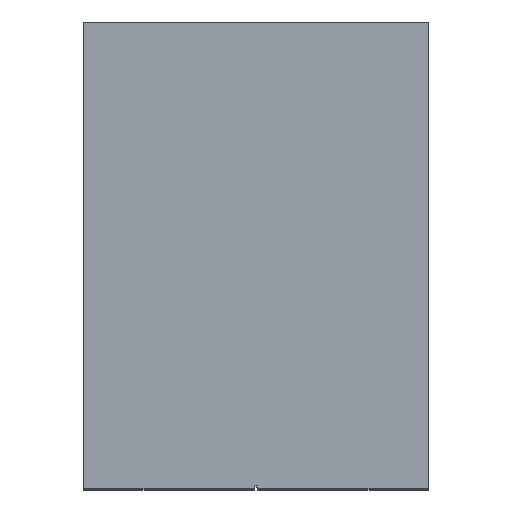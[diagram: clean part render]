
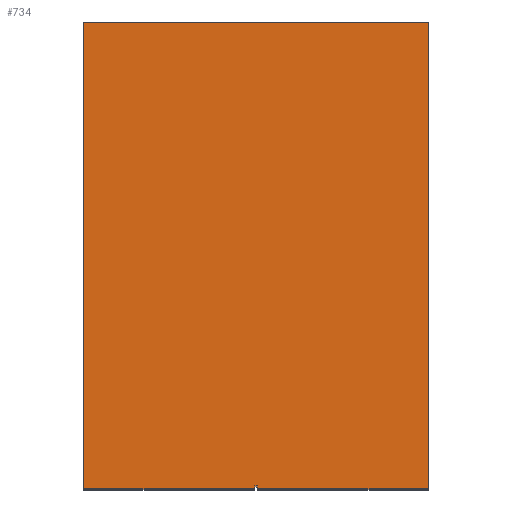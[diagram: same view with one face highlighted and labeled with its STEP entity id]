
A CAD part, top view. The second image highlights one B-rep face of the part: STEP entity #734.
In plain terms, the highlighted planar face has unit normal (0, 0, 1).
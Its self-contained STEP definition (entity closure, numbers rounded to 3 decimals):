
#52=FACE_OUTER_BOUND('',#83,.T.);
#83=EDGE_LOOP('',(#648,#649,#650,#651,#652,#653,#654,#655));
#218=VERTEX_POINT('',#2017);
#220=VERTEX_POINT('',#2020);
#227=VERTEX_POINT('',#2036);
#229=VERTEX_POINT('',#2040);
#242=VERTEX_POINT('',#2082);
#243=VERTEX_POINT('',#2086);
#248=VERTEX_POINT('',#2104);
#249=VERTEX_POINT('',#2106);
#386=EDGE_CURVE('',#220,#218,#1021,.T.);
#396=EDGE_CURVE('',#227,#229,#1031,.T.);
#408=EDGE_CURVE('',#218,#227,#1043,.T.);
#418=EDGE_CURVE('',#242,#220,#1053,.T.);
#420=EDGE_CURVE('',#229,#243,#1055,.T.);
#428=EDGE_CURVE('',#248,#243,#1063,.T.);
#429=EDGE_CURVE('',#249,#248,#1064,.T.);
#430=EDGE_CURVE('',#242,#249,#1065,.T.);
#648=ORIENTED_EDGE('',*,*,#428,.F.);
#649=ORIENTED_EDGE('',*,*,#429,.F.);
#650=ORIENTED_EDGE('',*,*,#430,.F.);
#651=ORIENTED_EDGE('',*,*,#418,.T.);
#652=ORIENTED_EDGE('',*,*,#386,.T.);
#653=ORIENTED_EDGE('',*,*,#408,.T.);
#654=ORIENTED_EDGE('',*,*,#396,.T.);
#655=ORIENTED_EDGE('',*,*,#420,.T.);
#703=PLANE('',#1319);
#734=ADVANCED_FACE('',(#52),#703,.T.);
#1021=LINE('',#2021,#1244);
#1031=LINE('',#2042,#1254);
#1043=LINE('',#2067,#1266);
#1053=LINE('',#2084,#1276);
#1055=LINE('',#2088,#1278);
#1063=LINE('',#2105,#1286);
#1064=LINE('',#2107,#1287);
#1065=LINE('',#2108,#1288);
#1244=VECTOR('',#1531,10.);
#1254=VECTOR('',#1545,10.);
#1266=VECTOR('',#1565,10.);
#1276=VECTOR('',#1581,595.);
#1278=VECTOR('',#1585,595.);
#1286=VECTOR('',#1601,1625.);
#1287=VECTOR('',#1602,1200.);
#1288=VECTOR('',#1603,1625.);
#1319=AXIS2_PLACEMENT_3D('',#2103,#1599,#1600);
#1531=DIRECTION('',(0.,1.,0.));
#1545=DIRECTION('',(0.,-1.,0.));
#1565=DIRECTION('',(1.,0.,0.));
#1581=DIRECTION('',(1.,0.,0.));
#1585=DIRECTION('',(1.,0.,0.));
#1599=DIRECTION('center_axis',(0.,0.,1.));
#1600=DIRECTION('ref_axis',(-1.,0.,0.));
#1601=DIRECTION('',(0.,-1.,0.));
#1602=DIRECTION('',(1.,0.,0.));
#1603=DIRECTION('',(0.,1.,0.));
#2017=CARTESIAN_POINT('',(595.,-1615.,2700.));
#2020=CARTESIAN_POINT('',(595.,-1625.,2700.));
#2021=CARTESIAN_POINT('',(595.,-1625.,2700.));
#2036=CARTESIAN_POINT('',(605.,-1615.,2700.));
#2040=CARTESIAN_POINT('',(605.,-1625.,2700.));
#2042=CARTESIAN_POINT('',(605.,-1615.,2700.));
#2067=CARTESIAN_POINT('',(595.,-1615.,2700.));
#2082=CARTESIAN_POINT('',(0.,-1625.,2700.));
#2084=CARTESIAN_POINT('',(0.,-1625.,2700.));
#2086=CARTESIAN_POINT('',(1200.,-1625.,2700.));
#2088=CARTESIAN_POINT('',(605.,-1625.,2700.));
#2103=CARTESIAN_POINT('Origin',(1200.,0.,2700.));
#2104=CARTESIAN_POINT('',(1200.,0.,2700.));
#2105=CARTESIAN_POINT('',(1200.,0.,2700.));
#2106=CARTESIAN_POINT('',(0.,0.,2700.));
#2107=CARTESIAN_POINT('',(0.,0.,2700.));
#2108=CARTESIAN_POINT('',(0.,-1625.,2700.));
